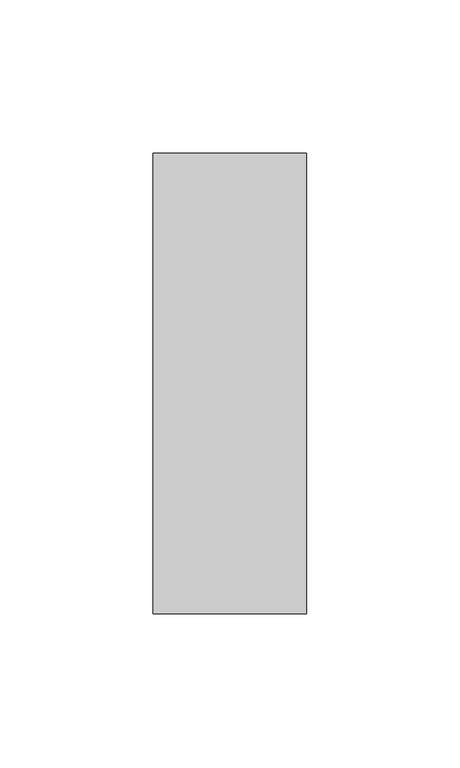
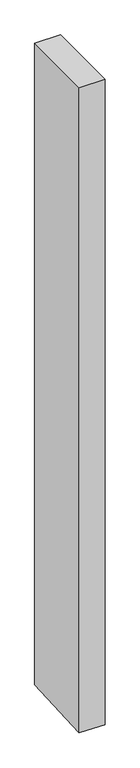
"""IFC4 building model written with IfcOpenShell, lengths in millimetres: member geometry, Прямоугольный импост : 50 x 150 мм."""

from ifc_helpers import new_model, si_unit, origin, place, context, project, spatial, faceted_brep, source, transform, mapped, element, save


def member_d83971c9(model_context):
    return source(origin(), model_context, "Body", "Brep", [
        faceted_brep([(25.0, 75.0, 0.0), (-25.0, 75.0, 0.0), (-25.0, -75.0, 0.0), (25.0, -75.0, 0.0), (25.0, 75.0, -1319.5481384), (-25.0, 75.0, -1318.354645), (-25.0, -75.0, -1325.534287), (25.0, -75.0, -1326.7277804)], [[[0, 1, 2, 3]], [[1, 0, 4, 5]], [[2, 1, 5, 6]], [[3, 2, 6, 7]], [[0, 3, 7, 4]], [[4, 7, 6, 5]]]),
    ])


if __name__ == "__main__":
    model = new_model("IFC4")
    model_context = context("Model", 3, world=origin())
    ifc_project = project(units=[si_unit("LENGTHUNIT", "METRE", prefix="MILLI")], contexts=[model_context])
    site = spatial("IfcSite", under=ifc_project)
    building = spatial("IfcBuilding", under=site)
    placement = place(None, origin())
    member_shape = member_d83971c9(model_context)
    element("IfcMember", 1, ObjectType="Прямоугольный импост : 50 x 150 мм", at=placement, inside=building, context=model_context, shape_type="MappedRepresentation", body=[
        mapped(member_shape, transform((0.0, 0.0, 0.0), x_axis=(1.0, 0.0, 0.0), y_axis=(0.0, 1.0, 0.0), z_axis=(0.0, 0.0, 1.0))),
    ])
    save(model, "model.ifc")
